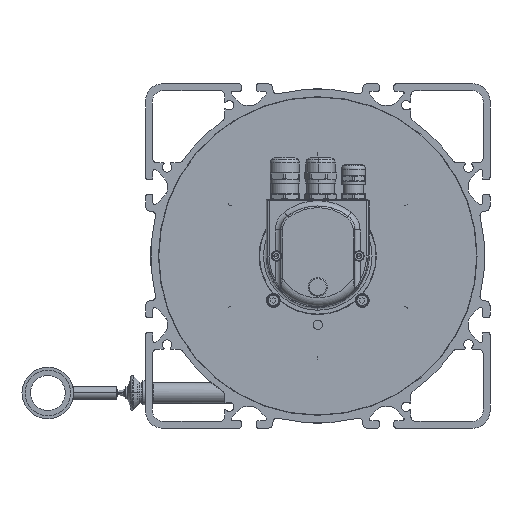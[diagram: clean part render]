
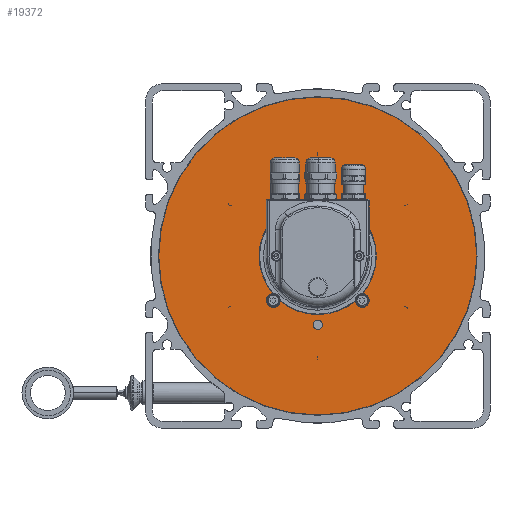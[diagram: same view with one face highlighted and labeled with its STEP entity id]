
A CAD part, left-side view. The second image highlights one B-rep face of the part: STEP entity #19372.
In plain terms, the highlighted planar face has unit normal (-1, 0, 0) as drawn and (1, 0, 0) by its records, which use the part's own axes.
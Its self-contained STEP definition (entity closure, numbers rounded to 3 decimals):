
#18144=CARTESIAN_POINT('',(8.,0.,0.));
#18145=DIRECTION('',(-1.,0.,0.));
#18146=DIRECTION('',(0.,1.,0.));
#18147=AXIS2_PLACEMENT_3D('',#18144,#18145,#18146);
#18152=CARTESIAN_POINT('',(8.,0.,0.));
#18153=DIRECTION('',(1.,0.,0.));
#18154=DIRECTION('',(0.,1.,0.));
#18155=AXIS2_PLACEMENT_3D('',#18152,#18153,#18154);
#18160=CARTESIAN_POINT('',(8.,-25.809,-25.809));
#18161=DIRECTION('',(1.,0.,0.));
#18162=DIRECTION('',(0.,-1.,0.));
#18163=AXIS2_PLACEMENT_3D('',#18160,#18161,#18162);
#18168=CARTESIAN_POINT('',(8.,-25.809,-25.809));
#18169=DIRECTION('',(1.,0.,0.));
#18170=DIRECTION('',(0.,1.,0.));
#18171=AXIS2_PLACEMENT_3D('',#18168,#18169,#18170);
#18176=CARTESIAN_POINT('',(8.,-25.809,25.809));
#18177=DIRECTION('',(1.,0.,0.));
#18178=DIRECTION('',(0.,0.,1.));
#18179=AXIS2_PLACEMENT_3D('',#18176,#18177,#18178);
#18184=CARTESIAN_POINT('',(8.,-25.809,25.809));
#18185=DIRECTION('',(1.,0.,0.));
#18186=DIRECTION('',(0.,0.,-1.));
#18187=AXIS2_PLACEMENT_3D('',#18184,#18185,#18186);
#18192=CARTESIAN_POINT('',(8.,25.809,25.809));
#18193=DIRECTION('',(1.,0.,0.));
#18194=DIRECTION('',(0.,1.,0.));
#18195=AXIS2_PLACEMENT_3D('',#18192,#18193,#18194);
#18200=CARTESIAN_POINT('',(8.,25.809,25.809));
#18201=DIRECTION('',(1.,0.,0.));
#18202=DIRECTION('',(0.,-1.,0.));
#18203=AXIS2_PLACEMENT_3D('',#18200,#18201,#18202);
#18208=CARTESIAN_POINT('',(8.,25.809,-25.809));
#18209=DIRECTION('',(1.,0.,0.));
#18210=DIRECTION('',(0.,0.,-1.));
#18211=AXIS2_PLACEMENT_3D('',#18208,#18209,#18210);
#18216=CARTESIAN_POINT('',(8.,25.809,-25.809));
#18217=DIRECTION('',(1.,0.,0.));
#18218=DIRECTION('',(0.,0.,1.));
#18219=AXIS2_PLACEMENT_3D('',#18216,#18217,#18218);
#18224=CARTESIAN_POINT('',(8.,40.,0.));
#18225=DIRECTION('',(1.,0.,0.));
#18226=DIRECTION('',(0.,-1.,0.));
#18227=AXIS2_PLACEMENT_3D('',#18224,#18225,#18226);
#18232=CARTESIAN_POINT('',(8.,40.,0.));
#18233=DIRECTION('',(1.,0.,0.));
#18234=DIRECTION('',(0.,1.,0.));
#18235=AXIS2_PLACEMENT_3D('',#18232,#18233,#18234);
#18240=CARTESIAN_POINT('',(8.,-40.,0.));
#18241=DIRECTION('',(1.,0.,0.));
#18242=DIRECTION('',(0.,1.,0.));
#18243=AXIS2_PLACEMENT_3D('',#18240,#18241,#18242);
#18248=CARTESIAN_POINT('',(8.,-40.,0.));
#18249=DIRECTION('',(1.,0.,0.));
#18250=DIRECTION('',(0.,-1.,0.));
#18251=AXIS2_PLACEMENT_3D('',#18248,#18249,#18250);
#18256=CARTESIAN_POINT('',(8.,0.,0.));
#18257=DIRECTION('',(-1.,0.,0.));
#18258=DIRECTION('',(0.,1.,0.));
#18259=AXIS2_PLACEMENT_3D('',#18256,#18257,#18258);
#18264=CARTESIAN_POINT('',(8.,0.,0.));
#18265=DIRECTION('',(-1.,0.,0.));
#18266=DIRECTION('',(0.,-1.,0.));
#18267=AXIS2_PLACEMENT_3D('',#18264,#18265,#18266);
#19052=CARTESIAN_POINT('',(8.,34.02,0.));
#19053=CARTESIAN_POINT('',(8.,-34.02,0.));
#19054=VERTEX_POINT('',#19052);
#19055=VERTEX_POINT('',#19053);
#19060=CARTESIAN_POINT('',(8.,37.35,0.));
#19061=CARTESIAN_POINT('',(8.,42.65,0.));
#19062=VERTEX_POINT('',#19060);
#19063=VERTEX_POINT('',#19061);
#19064=CARTESIAN_POINT('',(8.,-37.35,0.));
#19065=CARTESIAN_POINT('',(8.,-42.65,0.));
#19066=VERTEX_POINT('',#19064);
#19067=VERTEX_POINT('',#19065);
#19108=CARTESIAN_POINT('',(8.,-28.159,-25.809));
#19109=CARTESIAN_POINT('',(8.,-23.459,-25.809));
#19110=VERTEX_POINT('',#19108);
#19111=VERTEX_POINT('',#19109);
#19116=CARTESIAN_POINT('',(8.,-25.809,28.159));
#19117=CARTESIAN_POINT('',(8.,-25.809,23.459));
#19118=VERTEX_POINT('',#19116);
#19119=VERTEX_POINT('',#19117);
#19124=CARTESIAN_POINT('',(8.,28.159,25.809));
#19125=CARTESIAN_POINT('',(8.,23.459,25.809));
#19126=VERTEX_POINT('',#19124);
#19127=VERTEX_POINT('',#19125);
#19132=CARTESIAN_POINT('',(8.,25.809,-28.159));
#19133=CARTESIAN_POINT('',(8.,25.809,-23.459));
#19134=VERTEX_POINT('',#19132);
#19135=VERTEX_POINT('',#19133);
#19140=CARTESIAN_POINT('',(8.,92.3,0.));
#19141=CARTESIAN_POINT('',(8.,-92.3,0.));
#19142=VERTEX_POINT('',#19140);
#19143=VERTEX_POINT('',#19141);
#19321=CARTESIAN_POINT('',(8.,0.,0.));
#19322=DIRECTION('',(1.,0.,0.));
#19323=DIRECTION('',(0.,-1.,0.));
#19324=AXIS2_PLACEMENT_3D('',#19321,#19322,#19323);
#19325=PLANE('',#19324);
#19327=ORIENTED_EDGE('',*,*,#19326,.T.);
#19329=ORIENTED_EDGE('',*,*,#19328,.T.);
#19330=EDGE_LOOP('',(#19327,#19329));
#19331=FACE_OUTER_BOUND('',#19330,.F.);
#19333=ORIENTED_EDGE('',*,*,#19332,.T.);
#19335=ORIENTED_EDGE('',*,*,#19334,.T.);
#19336=EDGE_LOOP('',(#19333,#19335));
#19337=FACE_BOUND('',#19336,.F.);
#19339=ORIENTED_EDGE('',*,*,#19338,.T.);
#19341=ORIENTED_EDGE('',*,*,#19340,.T.);
#19342=EDGE_LOOP('',(#19339,#19341));
#19343=FACE_BOUND('',#19342,.F.);
#19345=ORIENTED_EDGE('',*,*,#19344,.T.);
#19347=ORIENTED_EDGE('',*,*,#19346,.T.);
#19348=EDGE_LOOP('',(#19345,#19347));
#19349=FACE_BOUND('',#19348,.F.);
#19351=ORIENTED_EDGE('',*,*,#19350,.T.);
#19353=ORIENTED_EDGE('',*,*,#19352,.T.);
#19354=EDGE_LOOP('',(#19351,#19353));
#19355=FACE_BOUND('',#19354,.F.);
#19357=ORIENTED_EDGE('',*,*,#19356,.T.);
#19359=ORIENTED_EDGE('',*,*,#19358,.T.);
#19360=EDGE_LOOP('',(#19357,#19359));
#19361=FACE_BOUND('',#19360,.F.);
#19363=ORIENTED_EDGE('',*,*,#19362,.T.);
#19365=ORIENTED_EDGE('',*,*,#19364,.T.);
#19366=EDGE_LOOP('',(#19363,#19365));
#19367=FACE_BOUND('',#19366,.F.);
#19368=ORIENTED_EDGE('',*,*,#19289,.F.);
#19369=ORIENTED_EDGE('',*,*,#19267,.T.);
#19370=EDGE_LOOP('',(#19368,#19369));
#19371=FACE_BOUND('',#19370,.F.);
#18148=CIRCLE('',#18147,34.02);
#18156=CIRCLE('',#18155,34.02);
#18164=CIRCLE('',#18163,2.35);
#18172=CIRCLE('',#18171,2.35);
#18180=CIRCLE('',#18179,2.35);
#18188=CIRCLE('',#18187,2.35);
#18196=CIRCLE('',#18195,2.35);
#18204=CIRCLE('',#18203,2.35);
#18212=CIRCLE('',#18211,2.35);
#18220=CIRCLE('',#18219,2.35);
#18228=CIRCLE('',#18227,2.65);
#18236=CIRCLE('',#18235,2.65);
#18244=CIRCLE('',#18243,2.65);
#18252=CIRCLE('',#18251,2.65);
#18260=CIRCLE('',#18259,92.3);
#18268=CIRCLE('',#18267,92.3);
#19267=EDGE_CURVE('',#19054,#19055,#18156,.T.);
#19289=EDGE_CURVE('',#19054,#19055,#18148,.T.);
#19326=EDGE_CURVE('',#19142,#19143,#18260,.T.);
#19328=EDGE_CURVE('',#19143,#19142,#18268,.T.);
#19332=EDGE_CURVE('',#19110,#19111,#18164,.T.);
#19334=EDGE_CURVE('',#19111,#19110,#18172,.T.);
#19338=EDGE_CURVE('',#19118,#19119,#18180,.T.);
#19340=EDGE_CURVE('',#19119,#19118,#18188,.T.);
#19344=EDGE_CURVE('',#19126,#19127,#18196,.T.);
#19346=EDGE_CURVE('',#19127,#19126,#18204,.T.);
#19350=EDGE_CURVE('',#19134,#19135,#18212,.T.);
#19352=EDGE_CURVE('',#19135,#19134,#18220,.T.);
#19356=EDGE_CURVE('',#19062,#19063,#18228,.T.);
#19358=EDGE_CURVE('',#19063,#19062,#18236,.T.);
#19362=EDGE_CURVE('',#19066,#19067,#18244,.T.);
#19364=EDGE_CURVE('',#19067,#19066,#18252,.T.);
#19372=ADVANCED_FACE('',(#19331,#19337,#19343,#19349,#19355,#19361,#19367,
#19371),#19325,.T.);
